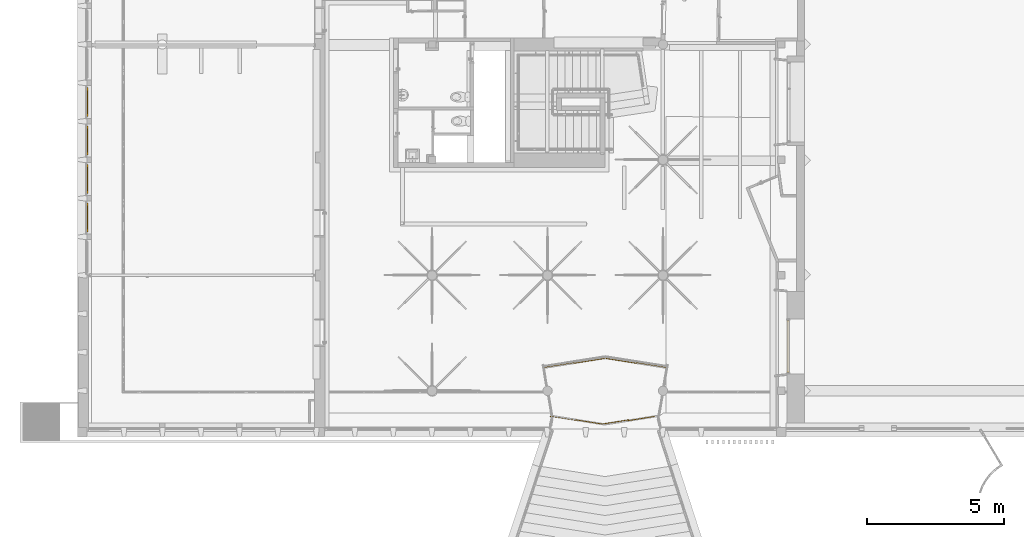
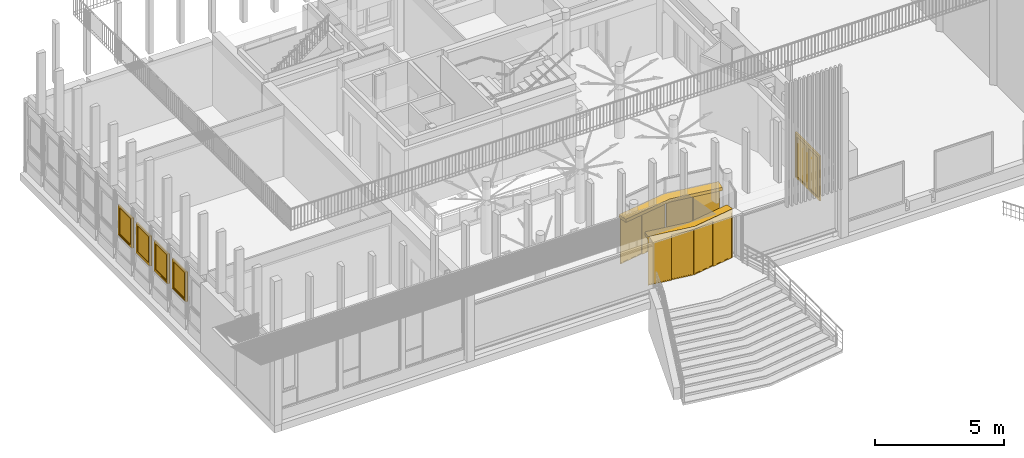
# One storey, part 49 of 65: 4 windows, 3 doors, 7 elements without a shape of their own.
"""IFC4 building model written with IfcOpenShell, lengths in metres."""

from ifc_helpers import new_model, entity, si_unit, converted_unit, derived_unit, direction, frame, origin, place, context, subcontext, project, spatial, indexed_curve, outline, extrude, polygons, source, transform, mapped, material, material_list, constituent, constituent_set, type_object, type_shapes, element, aggregate, save


model = new_model("IFC4")

# Units and contexts
model_context = context("Model", 3, precision=1e-05, world=origin(), true_north=direction((6.12303176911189e-17, 1.0)))
body_context = subcontext(model_context, "Body", "Model", "MODEL_VIEW")
ifc_project = project(units=[si_unit("LENGTHUNIT", "METRE"), si_unit("AREAUNIT", "SQUARE_METRE"), si_unit("VOLUMEUNIT", "CUBIC_METRE"), converted_unit("PLANEANGLEUNIT", "DEGREE", entity("IfcRatioMeasure", 0.0174532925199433), si_unit("PLANEANGLEUNIT", "RADIAN"), dimensions=[0, 0, 0, 0, 0, 0, 0]), si_unit("MASSUNIT", "GRAM", prefix="KILO"), derived_unit("MASSDENSITYUNIT", [(si_unit("MASSUNIT", "GRAM", prefix="KILO"), 1), (si_unit("LENGTHUNIT", "METRE"), -3)]), derived_unit("MOMENTOFINERTIAUNIT", [(si_unit("LENGTHUNIT", "METRE"), 4)]), si_unit("TIMEUNIT", "SECOND"), si_unit("FREQUENCYUNIT", "HERTZ"), si_unit("THERMODYNAMICTEMPERATUREUNIT", "DEGREE_CELSIUS"), derived_unit("THERMALTRANSMITTANCEUNIT", [(si_unit("MASSUNIT", "GRAM", prefix="KILO"), 1), (si_unit("THERMODYNAMICTEMPERATUREUNIT", "KELVIN"), -1), (si_unit("TIMEUNIT", "SECOND"), -3)]), derived_unit("VOLUMETRICFLOWRATEUNIT", [(si_unit("LENGTHUNIT", "METRE"), 3), (si_unit("TIMEUNIT", "SECOND"), -1)]), si_unit("ELECTRICCURRENTUNIT", "AMPERE"), si_unit("ELECTRICVOLTAGEUNIT", "VOLT"), si_unit("POWERUNIT", "WATT"), si_unit("FORCEUNIT", "NEWTON", prefix="KILO"), si_unit("ILLUMINANCEUNIT", "LUX"), si_unit("LUMINOUSFLUXUNIT", "LUMEN"), si_unit("LUMINOUSINTENSITYUNIT", "CANDELA"), derived_unit("USERDEFINED", [(si_unit("MASSUNIT", "GRAM", prefix="KILO"), -1), (si_unit("LENGTHUNIT", "METRE"), -2), (si_unit("TIMEUNIT", "SECOND"), 3), (si_unit("LUMINOUSFLUXUNIT", "LUMEN"), 1)]), derived_unit("LINEARVELOCITYUNIT", [(si_unit("LENGTHUNIT", "METRE"), 1), (si_unit("TIMEUNIT", "SECOND"), -1)]), si_unit("PRESSUREUNIT", "PASCAL"), derived_unit("USERDEFINED", [(si_unit("LENGTHUNIT", "METRE"), -2), (si_unit("MASSUNIT", "GRAM", prefix="KILO"), 1), (si_unit("TIMEUNIT", "SECOND"), -2)]), derived_unit("LINEARFORCEUNIT", [(si_unit("MASSUNIT", "GRAM", prefix="KILO"), 1), (si_unit("LENGTHUNIT", "METRE"), 1), (si_unit("TIMEUNIT", "SECOND"), -2), (si_unit("LENGTHUNIT", "METRE"), -1)]), derived_unit("PLANARFORCEUNIT", [(si_unit("MASSUNIT", "GRAM", prefix="KILO"), 1), (si_unit("LENGTHUNIT", "METRE"), 1), (si_unit("TIMEUNIT", "SECOND"), -2), (si_unit("LENGTHUNIT", "METRE"), -2)])], contexts=[model_context])

# Site, building, storey
site_placement = place(None, origin())
site = spatial("IfcSite", under=ifc_project, at=site_placement, Name="Default", CompositionType="ELEMENT")
building_placement = place(site_placement, origin())
building = spatial("IfcBuilding", under=site, at=building_placement, Name="HOTEL CONSULAIRE BOULOGNE SUR MER", CompositionType="ELEMENT")
storey_placement = place(building_placement, origin())
storey = spatial("IfcBuildingStorey", under=building, at=storey_placement, Name="Niveau 0", CompositionType="ELEMENT", Elevation=1.31981936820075e-13)

# Curtain wall, door
curtain_wall_type = type_object("IfcCurtainWallType", Name="Mur-rideau:Simple panneau", PredefinedType="NOTDEFINED")
curtain_wall_1_placement = place(storey_placement, origin())
curtain_wall_1 = element("IfcCurtainWall", 1, at=curtain_wall_1_placement, inside=storey, type_object=curtain_wall_type, Name="Mur-rideau:Simple panneau", ObjectType="Mur-rideau:Simple panneau", PredefinedType="NOTDEFINED")
ifc_material_1 = material(Name="PVC, souple", Category="Plastique")
ifc_constituent_1 = constituent(ifc_material_1, Name="PVC, souple", Category="Matériaux")
ifc_material_2 = material(Name="Verre", Category="Verre")
ifc_constituent_2 = constituent(ifc_material_2, Name="Verre", Category="Matériaux")
ifc_constituent_set_1 = constituent_set(constituents=[ifc_constituent_1, ifc_constituent_2], Name="MaterialConstituentSet")
ifc_material_list_1 = material_list([ifc_material_1, ifc_material_1, ifc_material_1])
door_type_1 = type_object("IfcDoorType", Name="Double vitrée1:Double vitrée1", OperationType="SWING_FIXED_RIGHT", PredefinedType="DOOR", material=ifc_material_list_1)
shared_shape_1 = source(origin(), body_context, "Body", "SweptSolid", [
    extrude(outline(indexed_curve([(-1.05645752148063, -0.948536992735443), (1.08145752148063, -0.948536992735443), (1.08145752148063, 0.948536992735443), (-1.05645752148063, 0.948536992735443), (-1.05645752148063, 0.898536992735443), (1.03145752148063, 0.898536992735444), (1.03145752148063, -0.898536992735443), (-1.05645752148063, -0.898536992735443), (-1.05645752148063, -0.948536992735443)], self_intersect=False)), frame((0.0, -0.0250000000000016, 1.05645752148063), z_axis=(0.0, 1.0, 0.0), x_axis=(0.0, 0.0, 1.0)), (0.0, 0.0, 1.0), 0.07),
    extrude(outline(indexed_curve([(-0.00500000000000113, -0.349268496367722), (0.00499999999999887, -0.349268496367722), (0.00500000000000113, 0.349268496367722), (-0.00499999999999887, 0.349268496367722), (-0.00500000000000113, -0.349268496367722)], self_intersect=False)), frame((0.449268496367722, 0.0099999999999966, 0.1), z_axis=(0.0, 0.0, 1.0), x_axis=(0.0, 1.0, 0.0)), (0.0, 0.0, 1.0), 1.88791504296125),
    extrude(outline(indexed_curve([(-0.449268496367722, -1.04395752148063), (0.449268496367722, -1.04395752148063), (0.449268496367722, 1.04395752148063), (-0.449268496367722, 1.04395752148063), (-0.449268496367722, -1.04395752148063)], self_intersect=False), holes=[indexed_curve([(-0.349268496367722, 0.943957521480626), (0.349268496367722, 0.943957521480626), (0.349268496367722, -0.943957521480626), (-0.349268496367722, -0.943957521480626), (-0.349268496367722, 0.943957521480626)], self_intersect=False)]), frame((0.449268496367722, -0.0150000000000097, 1.04395752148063), z_axis=(0.0, 1.0, 0.0), x_axis=(-1.0, 0.0, 0.0)), (0.0, 0.0, 1.0), 0.05),
    extrude(outline(indexed_curve([(-0.00500000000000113, -0.349268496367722), (0.00499999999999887, -0.349268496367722), (0.00500000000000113, 0.349268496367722), (-0.00499999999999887, 0.349268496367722), (-0.00500000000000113, -0.349268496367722)], self_intersect=False)), frame((-0.449268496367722, 0.00999999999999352, 0.1), z_axis=(0.0, 0.0, 1.0), x_axis=(0.0, 1.0, 0.0)), (0.0, 0.0, 1.0), 1.88791504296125),
    extrude(outline(indexed_curve([(-1.04395752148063, -0.449268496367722), (1.04395752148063, -0.449268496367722), (1.04395752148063, 0.449268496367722), (-1.04395752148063, 0.449268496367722), (-1.04395752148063, -0.449268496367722)], self_intersect=False), holes=[indexed_curve([(-0.943957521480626, -0.349268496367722), (-0.943957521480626, 0.349268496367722), (0.943957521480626, 0.349268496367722), (0.943957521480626, -0.349268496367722), (-0.943957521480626, -0.349268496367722)], self_intersect=False)]), frame((-0.449268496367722, -0.0150000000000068, 1.04395752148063), z_axis=(0.0, 1.0, 0.0), x_axis=(0.0, 0.0, -1.0)), (0.0, 0.0, 1.0), 0.05),
])
type_shapes(door_type_1, [shared_shape_1])
door_1_placement = place(curtain_wall_1_placement, frame((11.7294778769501, -26.6015193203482, 0.0), z_axis=(0.0, 0.0, 1.0), x_axis=(0.0, 1.0, 0.0)))
door_1 = element("IfcDoor", 2, at=door_1_placement, type_object=door_type_1, material=ifc_constituent_set_1, Name="Double vitrée1:Double vitrée1", ObjectType="Double vitrée1:Double vitrée1", OperationType="SWING_FIXED_RIGHT", OverallHeight=2.13791504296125, OverallWidth=1.89707398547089, PredefinedType="DOOR", context=body_context, shape_type="MappedRepresentation", body=[
    mapped(shared_shape_1, transform((0.0, 0.0, 0.0), scale=1.0)),
])
aggregate(curtain_wall_1, [door_1])

curtain_wall_2_placement = place(storey_placement, origin())
curtain_wall_2 = element("IfcCurtainWall", 3, at=curtain_wall_2_placement, inside=storey, type_object=curtain_wall_type, Name="Mur-rideau:Simple panneau", ObjectType="Mur-rideau:Simple panneau", PredefinedType="NOTDEFINED")
ifc_material_3 = material(Name="PVC - Blanc", Category="Plastique")
ifc_constituent_3 = constituent(ifc_material_3, Name="PVC - Blanc", Category="Matériaux")
ifc_constituent_4 = constituent(ifc_material_2, Name="Verre", Category="Matériaux")
ifc_constituent_set_2 = constituent_set(constituents=[ifc_constituent_3, ifc_constituent_4], Name="MaterialConstituentSet")
ifc_material_list_2 = material_list([ifc_material_3, ifc_material_3])
door_type_2 = type_object("IfcDoorType", Name="Coulissante vitrée1:Coulissante vitrée1", OperationType="NOTDEFINED", PredefinedType="DOOR", material=ifc_material_list_2)
shared_shape_2 = source(origin(), body_context, "Body", "SweptSolid", [
    extrude(outline(indexed_curve([(-0.487773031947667, -1.083), (0.487773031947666, -1.083), (0.487773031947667, 1.083), (-0.487773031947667, 1.083), (-0.487773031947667, -1.083)], self_intersect=False), holes=[indexed_curve([(0.447773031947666, -1.043), (-0.447773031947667, -1.043), (-0.447773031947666, 1.043), (0.447773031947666, 1.043), (0.447773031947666, -1.043)], self_intersect=False)]), frame((0.469331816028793, -0.104384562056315, 1.083), z_axis=(-0.156434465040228, 0.987688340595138, 0.0), x_axis=(0.987688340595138, 0.156434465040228, 0.0)), (0.0, 0.0, 1.0), 0.0250000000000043),
    extrude(outline(indexed_curve([(-1.083, -0.487772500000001), (1.083, -0.487772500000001), (1.083, 0.487772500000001), (-1.083, 0.487772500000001), (-1.083, -0.487772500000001)], self_intersect=False), holes=[indexed_curve([(-1.043, -0.4477725), (-1.043, 0.4477725), (1.043, 0.4477725), (1.043, -0.4477725), (-1.043, -0.4477725)], self_intersect=False)]), frame((1.39727009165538, 0.0172747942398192, 1.083), z_axis=(-0.156434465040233, 0.987688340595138, 0.0), x_axis=(0.0, 0.0, -1.0)), (0.0, 0.0, 1.0), 0.025),
    extrude(outline(indexed_curve([(-1.083, -0.487773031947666), (1.083, -0.487773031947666), (1.083, 0.487773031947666), (-1.083, 0.487773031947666), (-1.083, -0.487773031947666)], self_intersect=False), holes=[indexed_curve([(-1.04299999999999, 0.447773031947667), (1.043, 0.447773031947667), (1.043, -0.447773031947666), (-1.04299999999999, -0.447773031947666), (-1.04299999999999, 0.447773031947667)], self_intersect=False)]), frame((-0.51125721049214, -0.104384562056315, 1.083), z_axis=(0.156434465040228, 0.987688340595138, 0.0), x_axis=(0.0, 0.0, -1.0)), (0.0, 0.0, 1.0), 0.0250000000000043),
    extrude(outline(indexed_curve([(-0.487772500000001, -1.083), (0.487772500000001, -1.083), (0.487772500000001, 1.083), (-0.487772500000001, 1.083), (-0.487772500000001, -1.083)], self_intersect=False), holes=[indexed_curve([(-0.447772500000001, -1.04299999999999), (-0.447772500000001, 1.043), (0.447772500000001, 1.043), (0.4477725, -1.04299999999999), (-0.447772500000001, -1.04299999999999)], self_intersect=False)]), frame((-1.43919548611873, 0.0172747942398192, 1.083), z_axis=(0.156434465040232, 0.987688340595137, 0.0), x_axis=(0.987688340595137, -0.156434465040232, 0.0)), (0.0, 0.0, 1.0), 0.025),
    extrude(outline(indexed_curve([(-0.00450000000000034, -0.447773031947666), (0.00449999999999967, -0.447773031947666), (0.00450000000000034, 0.447773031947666), (-0.00449999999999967, 0.447773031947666), (-0.00450000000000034, -0.447773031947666)], self_intersect=False)), frame((0.46721995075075, -0.0910507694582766, 0.04), z_axis=(0.0, 0.0, 1.0), x_axis=(-0.156434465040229, 0.987688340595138, 0.0)), (0.0, 0.0, 1.0), 2.086),
    extrude(outline(indexed_curve([(-0.00450000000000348, -0.4477725), (0.00450000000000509, -0.4477725), (0.00450000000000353, 0.447772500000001), (-0.00450000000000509, 0.447772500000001), (-0.00450000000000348, -0.4477725)], self_intersect=False)), frame((1.39547109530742, 0.0286332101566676, 0.0400000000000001), z_axis=(0.0, 0.0, 1.0), x_axis=(-0.156434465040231, 0.987688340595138, 0.0)), (0.0, 0.0, 1.0), 2.086),
    extrude(outline(indexed_curve([(-0.00450000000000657, -0.447773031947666), (0.00449999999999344, -0.447773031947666), (0.0045000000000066, 0.447773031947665), (-0.00449999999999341, 0.447773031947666), (-0.00450000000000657, -0.447773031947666)], self_intersect=False)), frame((-0.509145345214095, -0.0910507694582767, 0.04), z_axis=(0.0, 0.0, 1.0), x_axis=(0.156434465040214, 0.98768834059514, 0.0)), (0.0, 0.0, 1.0), 2.08599999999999),
    extrude(outline(indexed_curve([(-0.00450000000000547, -0.4477725), (0.00450000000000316, -0.4477725), (0.00450000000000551, 0.4477725), (-0.00450000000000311, 0.4477725), (-0.00450000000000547, -0.4477725)], self_intersect=False)), frame((-1.43739648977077, 0.0286332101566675, 0.0400000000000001), z_axis=(0.0, 0.0, 1.0), x_axis=(0.15643446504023, 0.987688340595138, 0.0)), (0.0, 0.0, 1.0), 2.08599999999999),
    extrude(outline(indexed_curve([(-0.0586490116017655, -0.370295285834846), (1.86503472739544, -0.370295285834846), (1.86503472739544, -0.0202952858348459), (-0.00321445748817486, -0.0202952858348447), (-1.78002501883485, 0.557025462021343), (-1.88818096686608, 0.22415568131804), (-0.0586490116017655, -0.370295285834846)], self_intersect=False)), frame((-0.0209626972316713, 0.167559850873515, 2.166), z_axis=(0.0, 0.0, 1.0), x_axis=(0.987688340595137, 0.156434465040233, 0.0)), (0.0, 0.0, 1.0), 0.149999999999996),
])
type_shapes(door_type_2, [shared_shape_2])
door_2_placement = place(curtain_wall_2_placement, frame((4.9801570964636, -29.2557686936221, 0.0)))
door_2 = element("IfcDoor", 4, at=door_2_placement, type_object=door_type_2, material=ifc_constituent_set_2, Name="Coulissante vitrée1:Coulissante vitrée1", ObjectType="Coulissante vitrée1:Coulissante vitrée1", OperationType="NOTDEFINED", OverallHeight=2.316, OverallWidth=4.01796064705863, PredefinedType="DOOR", context=body_context, shape_type="MappedRepresentation", body=[
    mapped(shared_shape_2, transform((0.0, 0.0, 0.0), scale=1.0)),
])
aggregate(curtain_wall_2, [door_2])

curtain_wall_3_placement = place(storey_placement, origin())
curtain_wall_3 = element("IfcCurtainWall", 5, at=curtain_wall_3_placement, inside=storey, type_object=curtain_wall_type, Name="Mur-rideau:Simple panneau", ObjectType="Mur-rideau:Simple panneau", PredefinedType="NOTDEFINED")
ifc_constituent_5 = constituent(ifc_material_3, Name="PVC - Blanc", Category="Matériaux")
ifc_constituent_6 = constituent(ifc_material_2, Name="Verre", Category="Matériaux")
ifc_constituent_set_3 = constituent_set(constituents=[ifc_constituent_5, ifc_constituent_6], Name="MaterialConstituentSet")
ifc_material_list_3 = material_list([ifc_material_3, ifc_material_3])
door_type_3 = type_object("IfcDoorType", Name="Coulissante vitrée2:Coulissante vitrée2", OperationType="NOTDEFINED", PredefinedType="DOOR", material=ifc_material_list_3)
shared_shape_3 = source(origin(), body_context, "Body", "SweptSolid", [
    extrude(outline(indexed_curve([(-1.083, -0.569401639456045), (1.083, -0.569401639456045), (1.083, 0.569401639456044), (-1.083, 0.569401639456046), (-1.083, -0.569401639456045)], self_intersect=False), holes=[indexed_curve([(-1.043, 0.529401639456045), (1.043, 0.529401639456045), (1.043, -0.529401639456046), (-1.043, -0.529401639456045), (-1.043, 0.529401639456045)], self_intersect=False)]), frame((-0.590228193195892, 0.114872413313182, 1.083), z_axis=(-0.156434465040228, 0.987688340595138, 0.0), x_axis=(0.0, 0.0, -1.0)), (0.0, 0.0, 1.0), 0.0250000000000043),
    extrude(outline(indexed_curve([(-0.559401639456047, -1.08299999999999), (0.559401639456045, -1.08299999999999), (0.559401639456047, 1.08299999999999), (-0.559401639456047, 1.08299999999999), (-0.559401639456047, -1.08299999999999)], self_intersect=False), holes=[indexed_curve([(-0.519401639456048, -1.04300000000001), (-0.519401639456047, 1.04299999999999), (0.519401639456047, 1.04299999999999), (0.519401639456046, -1.04300000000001), (-0.519401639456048, -1.04300000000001)], self_intersect=False)]), frame((-1.66953735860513, -0.030761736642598, 1.08299999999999), z_axis=(-0.156434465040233, 0.987688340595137, 0.0), x_axis=(0.987688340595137, 0.156434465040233, 0.0)), (0.0, 0.0, 1.0), 0.025),
    extrude(outline(indexed_curve([(-0.569401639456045, -1.083), (0.569401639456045, -1.083), (0.569401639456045, 1.083), (-0.569401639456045, 1.083), (-0.569401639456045, -1.083)], self_intersect=False), holes=[indexed_curve([(0.529401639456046, -1.04300000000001), (-0.529401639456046, -1.04300000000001), (-0.529401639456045, 1.043), (0.529401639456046, 1.043), (0.529401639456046, -1.04300000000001)], self_intersect=False)]), frame((0.596124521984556, 0.114872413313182, 1.083), z_axis=(0.156434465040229, 0.987688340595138, 0.0), x_axis=(0.987688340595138, -0.156434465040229, 0.0)), (0.0, 0.0, 1.0), 0.0250000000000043),
    extrude(outline(indexed_curve([(-1.083, -0.559401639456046), (1.083, -0.559401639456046), (1.083, 0.559401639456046), (-1.083, 0.559401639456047), (-1.083, -0.559401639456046)], self_intersect=False), holes=[indexed_curve([(-1.04300000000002, -0.519401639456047), (-1.04300000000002, 0.519401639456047), (1.043, 0.519401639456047), (1.043, -0.519401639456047), (-1.04300000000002, -0.519401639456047)], self_intersect=False)]), frame((1.67543368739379, -0.0307617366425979, 1.083), z_axis=(0.156434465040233, 0.987688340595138, 0.0), x_axis=(0.0, 0.0, -1.0)), (0.0, 0.0, 1.0), 0.025),
    extrude(outline(indexed_curve([(-0.529401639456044, -0.00450000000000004), (0.529401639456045, -0.00449999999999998), (0.529401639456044, 0.00450000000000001), (-0.529401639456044, 0.00449999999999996), (-0.529401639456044, -0.00450000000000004)], self_intersect=False)), frame((-0.592027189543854, 0.126230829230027, 0.0400000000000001), z_axis=(0.0, 0.0, 1.0), x_axis=(-0.987688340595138, -0.156434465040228, 0.0)), (0.0, 0.0, 1.0), 2.08599999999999),
    extrude(outline(indexed_curve([(-0.519401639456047, -0.00450000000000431), (0.519401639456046, -0.00450000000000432), (0.519401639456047, 0.00450000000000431), (-0.519401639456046, 0.00450000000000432), (-0.519401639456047, -0.00450000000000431)], self_intersect=False)), frame((-1.67164922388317, -0.0174279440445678, 0.0400000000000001), z_axis=(0.0, 0.0, 1.0), x_axis=(-0.987688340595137, -0.156434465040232, 0.0)), (0.0, 0.0, 1.0), 2.086),
    extrude(outline(indexed_curve([(-0.529401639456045, -0.00449999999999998), (0.529401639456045, -0.00450000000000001), (0.529401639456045, 0.00449999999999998), (-0.529401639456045, 0.00450000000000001), (-0.529401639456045, -0.00449999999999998)], self_intersect=False)), frame((0.597923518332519, 0.126230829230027, 0.0400000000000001), z_axis=(0.0, 0.0, 1.0), x_axis=(-0.987688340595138, 0.156434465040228, 0.0)), (0.0, 0.0, 1.0), 2.086),
    extrude(outline(indexed_curve([(-0.519401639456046, -0.00450000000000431), (0.519401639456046, -0.00450000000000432), (0.519401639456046, 0.00450000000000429), (-0.519401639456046, 0.00450000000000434), (-0.519401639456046, -0.00450000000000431)], self_intersect=False)), frame((1.67754555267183, -0.0174279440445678, 0.0400000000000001), z_axis=(0.0, 0.0, 1.0), x_axis=(-0.987688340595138, 0.156434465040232, 0.0)), (0.0, 0.0, 1.0), 2.08600000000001),
    extrude(outline(indexed_curve([(-0.0704736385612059, -0.444953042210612), (2.19601004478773, -0.444953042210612), (2.19601004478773, -0.0149530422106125), (-0.00236832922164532, -0.0149530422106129), (-2.09315040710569, 0.664383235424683), (-2.22602771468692, 0.255428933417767), (-0.0704736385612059, -0.444953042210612)], self_intersect=False)), frame((0.00294816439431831, -0.12847706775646, 2.166), z_axis=(0.0, 0.0, 1.0), x_axis=(-0.987688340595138, -0.156434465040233, 0.0)), (0.0, 0.0, 1.0), 0.149999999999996),
])
type_shapes(door_type_3, [shared_shape_3])
door_3_placement = place(curtain_wall_3_placement, frame((5.06730722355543, -27.2565666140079, 0.0)))
door_3 = element("IfcDoor", 6, at=door_3_placement, type_object=door_type_3, material=ifc_constituent_set_3, Name="Coulissante vitrée2:Coulissante vitrée2", ObjectType="Coulissante vitrée2:Coulissante vitrée2", OperationType="NOTDEFINED", OverallHeight=2.316, OverallWidth=4.48017154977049, PredefinedType="DOOR", context=body_context, shape_type="MappedRepresentation", body=[
    mapped(shared_shape_3, transform((0.0, 0.0, 0.0), scale=1.0)),
])
aggregate(curtain_wall_3, [door_3])

# Curtain wall, window
curtain_wall_4_placement = place(storey_placement, origin())
curtain_wall_4 = element("IfcCurtainWall", 7, at=curtain_wall_4_placement, inside=storey, type_object=curtain_wall_type, Name="Mur-rideau:Simple panneau", ObjectType="Mur-rideau:Simple panneau", PredefinedType="NOTDEFINED")
ifc_constituent_7 = constituent(ifc_material_3, Name="PVC - Blanc", Category="Matériaux")
ifc_material_4 = material(Name="Fenêtre - Vitrage", Category="Verre")
ifc_constituent_8 = constituent(ifc_material_4, Name="Fenêtre - Vitrage", Category="Matériaux")
ifc_constituent_set_4 = constituent_set(constituents=[ifc_constituent_7, ifc_constituent_8], Name="MaterialConstituentSet")
ifc_material_list_4 = material_list([ifc_material_3, ifc_material_3])
window_type = type_object("IfcWindowType", Name="MR 1 Vantail:MR 1 Vantail", PartitioningType="NOTDEFINED", PredefinedType="WINDOW", material=ifc_material_list_4)
shared_shape_4 = source(origin(), body_context, "Body", "Tessellation", [
    polygons([(-0.460646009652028, -0.0492408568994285, 0.472033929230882), (-0.449353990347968, -0.0492408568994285, 0.472033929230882), (-0.447966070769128, -0.0492408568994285, 0.470646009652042), (-0.447966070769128, -0.0492408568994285, 0.459332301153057), (-0.449332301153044, -0.0492408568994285, 0.457966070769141), (-0.460667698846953, -0.0492408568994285, 0.457966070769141), (-0.462033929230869, -0.0492408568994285, 0.459332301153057), (-0.462033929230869, -0.0492408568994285, 0.470646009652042), (-0.462033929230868, -0.0615795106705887, 0.470646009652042), (-0.460646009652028, -0.0621544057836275, 0.472033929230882), (-0.462033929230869, -0.0568932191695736, 0.459332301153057), (-0.462033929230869, -0.063573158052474, 0.452652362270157), (-0.462033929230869, -0.0635731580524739, 0.370000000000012), (-0.462033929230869, -0.0748868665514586, 0.370000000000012), (-0.462033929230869, -0.0748868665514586, 0.457338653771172), (-0.460667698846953, -0.0563273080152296, 0.457966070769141), (-0.449332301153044, -0.0563273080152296, 0.457966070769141), (-0.447966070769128, -0.0568932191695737, 0.459332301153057), (-0.447966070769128, -0.0615795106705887, 0.470646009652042), (-0.447966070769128, -0.0748868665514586, 0.457338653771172), (-0.447966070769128, -0.0748868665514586, 0.370000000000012), (-0.447966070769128, -0.0635731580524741, 0.370000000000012), (-0.447966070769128, -0.0635731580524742, 0.452652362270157), (-0.449353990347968, -0.0621544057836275, 0.472033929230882), (-0.460646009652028, -0.0762747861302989, 0.457913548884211), (-0.460667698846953, -0.0622069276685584, 0.452086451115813), (-0.449332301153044, -0.0622069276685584, 0.452086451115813), (-0.449353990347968, -0.0762747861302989, 0.457913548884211), (-0.460646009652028, -0.0762747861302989, 0.370000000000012), (-0.460667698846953, -0.0622069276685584, 0.370000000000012), (-0.449332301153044, -0.0622069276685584, 0.370000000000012), (-0.449353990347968, -0.0762747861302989, 0.370000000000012)], [[[6, 7, 8, 1, 2, 3, 4, 5]], [[30, 26, 27, 31]], [[9, 10, 1, 8]], [[11, 12, 13, 14, 15, 9, 8, 7]], [[16, 11, 7, 6]], [[16, 6, 5, 17]], [[31, 22, 21, 32, 29, 14, 13, 30]], [[17, 5, 4, 18]], [[3, 19, 20, 21, 22, 23, 18, 4]], [[19, 3, 2, 24]], [[24, 2, 1, 10]], [[15, 25, 10, 9]], [[26, 12, 11, 16]], [[27, 26, 16, 17]], [[27, 17, 18, 23]], [[20, 19, 24, 28]], [[28, 24, 10, 25]], [[29, 25, 15, 14]], [[13, 12, 26, 30]], [[22, 31, 27, 23]], [[32, 21, 20, 28]], [[32, 28, 25, 29]]], closed=True),
    polygons([(-0.462000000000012, -0.0432408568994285, 0.490000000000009), (-0.447999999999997, -0.0432408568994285, 0.490000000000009), (-0.442999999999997, -0.0432408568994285, 0.48500000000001), (-0.442999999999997, -0.0432408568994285, 0.414999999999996), (-0.447999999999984, -0.0432408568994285, 0.410000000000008), (-0.462000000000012, -0.0432408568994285, 0.410000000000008), (-0.466999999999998, -0.0432408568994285, 0.414999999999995), (-0.466999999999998, -0.0432408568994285, 0.48500000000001), (-0.462000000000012, -0.0492408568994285, 0.490000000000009), (-0.466999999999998, -0.0492408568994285, 0.48500000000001), (-0.466999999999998, -0.0492408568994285, 0.414999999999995), (-0.462000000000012, -0.0492408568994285, 0.410000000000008), (-0.447999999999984, -0.0492408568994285, 0.410000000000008), (-0.442999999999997, -0.0492408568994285, 0.414999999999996), (-0.442999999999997, -0.0492408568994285, 0.48500000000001), (-0.447999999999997, -0.0492408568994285, 0.490000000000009)], [[[2, 3, 4, 5, 6, 7, 8, 1]], [[13, 14, 15, 16, 9, 10, 11, 12]], [[9, 1, 8, 10]], [[10, 8, 7, 11]], [[11, 7, 6, 12]], [[12, 6, 5, 13]], [[13, 5, 4, 14]], [[15, 14, 4, 3]], [[15, 3, 2, 16]], [[16, 2, 1, 9]]], closed=True),
    polygons([(0.430000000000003, -0.0192408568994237, 1.334), (-0.430000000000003, -0.0192408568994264, 1.334), (-0.430000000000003, -0.0192408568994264, 0.1), (0.430000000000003, -0.0192408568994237, 0.1), (0.430000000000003, -0.00724085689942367, 1.334), (0.430000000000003, -0.00724085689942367, 0.1), (-0.430000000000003, -0.00724085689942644, 0.1), (-0.430000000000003, -0.00724085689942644, 1.334)], [[[4, 1, 2, 3]], [[7, 8, 5, 6]], [[2, 1, 5, 8]], [[3, 2, 8, 7]], [[4, 3, 7, 6]], [[1, 4, 6, 5]]], closed=True),
    polygons([(-0.480000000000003, 0.0167591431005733, 1.384), (-0.480000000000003, -0.043240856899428, 1.384), (0.480000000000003, -0.043240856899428, 1.384), (0.480000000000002, 0.0167591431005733, 1.384), (-0.430000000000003, -0.043240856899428, 1.334), (-0.430000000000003, 0.0167591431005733, 1.334), (0.430000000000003, 0.0167591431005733, 1.334), (0.430000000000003, -0.043240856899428, 1.334), (0.480000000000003, -0.043240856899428, 0.0500000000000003), (0.480000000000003, 0.0167591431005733, 0.0500000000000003), (0.430000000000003, 0.0167591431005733, 0.1), (0.430000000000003, -0.043240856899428, 0.1), (-0.480000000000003, -0.043240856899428, 0.0500000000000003), (-0.480000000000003, 0.0167591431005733, 0.0500000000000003), (-0.430000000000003, 0.0167591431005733, 0.1), (-0.430000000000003, -0.043240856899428, 0.1)], [[[1, 2, 3, 4]], [[12, 11, 15, 16]], [[5, 6, 7, 8]], [[10, 9, 13, 14]], [[4, 3, 9, 10]], [[16, 15, 6, 5]], [[8, 7, 11, 12]], [[14, 13, 2, 1]], [[9, 3, 2, 13], [16, 5, 8, 12]], [[14, 1, 4, 10], [11, 7, 6, 15]]], closed=True),
    polygons([(-0.470000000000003, 0.016759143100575, 1.374), (-0.470000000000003, 0.0267591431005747, 1.374), (0.470000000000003, 0.0267591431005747, 1.374), (0.470000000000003, 0.016759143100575, 1.374), (-0.480000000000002, -0.0432408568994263, 1.384), (-0.480000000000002, 0.016759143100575, 1.384), (0.480000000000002, 0.016759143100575, 1.384), (0.480000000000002, -0.0432408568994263, 1.384), (-0.530000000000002, 0.0267591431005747, 1.434), (-0.530000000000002, -0.0432408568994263, 1.434), (0.530000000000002, -0.0432408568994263, 1.434), (0.530000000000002, 0.0267591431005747, 1.434), (0.470000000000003, 0.0267591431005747, 0.0600000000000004), (0.470000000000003, 0.016759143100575, 0.0600000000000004), (0.480000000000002, 0.016759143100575, 0.0500000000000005), (0.480000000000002, -0.0432408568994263, 0.0500000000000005), (0.530000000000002, -0.0432408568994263, 5.41433564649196e-16), (0.530000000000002, 0.0267591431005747, 5.41433564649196e-16), (-0.470000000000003, 0.0267591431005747, 0.0600000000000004), (-0.470000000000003, 0.016759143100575, 0.0600000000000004), (-0.480000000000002, 0.016759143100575, 0.0500000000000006), (-0.480000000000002, -0.0432408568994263, 0.0500000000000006), (-0.530000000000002, -0.0432408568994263, 5.41433564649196e-16), (-0.530000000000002, 0.0267591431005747, 5.41433564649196e-16)], [[[1, 2, 3, 4]], [[5, 6, 7, 8]], [[18, 17, 23, 24]], [[9, 10, 11, 12]], [[14, 13, 19, 20]], [[16, 15, 21, 22]], [[4, 3, 13, 14]], [[8, 7, 15, 16]], [[24, 23, 10, 9]], [[12, 11, 17, 18]], [[20, 19, 2, 1]], [[22, 21, 6, 5]], [[24, 9, 12, 18], [13, 3, 2, 19]], [[15, 7, 6, 21], [20, 1, 4, 14]], [[17, 11, 10, 23], [22, 5, 8, 16]]], closed=True),
])
type_shapes(window_type, [shared_shape_4])
window_1_placement = place(curtain_wall_4_placement, frame((-13.7900998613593, -21.9114499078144, 1.0419999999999), z_axis=(0.0, 0.0, 1.0), x_axis=(0.0, 1.0, 0.0)))
window_1 = element("IfcWindow", 8, at=window_1_placement, type_object=window_type, material=ifc_constituent_set_4, Name="MR 1 Vantail:MR 1 Vantail", ObjectType="MR 1 Vantail:MR 1 Vantail", OverallHeight=1.434, OverallWidth=1.06000000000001, PartitioningType="NOTDEFINED", PredefinedType="WINDOW", context=body_context, shape_type="MappedRepresentation", body=[
    mapped(shared_shape_4, transform((0.0, 0.0, 0.0), scale=1.0)),
])
aggregate(curtain_wall_4, [window_1])

curtain_wall_5_placement = place(storey_placement, origin())
curtain_wall_5 = element("IfcCurtainWall", 9, at=curtain_wall_5_placement, inside=storey, type_object=curtain_wall_type, Name="Mur-rideau:Simple panneau", ObjectType="Mur-rideau:Simple panneau", PredefinedType="NOTDEFINED")
ifc_constituent_9 = constituent(ifc_material_3, Name="PVC - Blanc", Category="Matériaux")
ifc_constituent_10 = constituent(ifc_material_4, Name="Fenêtre - Vitrage", Category="Matériaux")
ifc_constituent_set_5 = constituent_set(constituents=[ifc_constituent_9, ifc_constituent_10], Name="MaterialConstituentSet")
window_2_placement = place(curtain_wall_5_placement, frame((-13.7900998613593, -20.5114499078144, 1.0419999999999), z_axis=(0.0, 0.0, 1.0), x_axis=(0.0, 1.0, 0.0)))
window_2 = element("IfcWindow", 10, at=window_2_placement, type_object=window_type, material=ifc_constituent_set_5, Name="MR 1 Vantail:MR 1 Vantail", ObjectType="MR 1 Vantail:MR 1 Vantail", OverallHeight=1.434, OverallWidth=1.06000000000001, PartitioningType="NOTDEFINED", PredefinedType="WINDOW", context=body_context, shape_type="MappedRepresentation", body=[
    mapped(shared_shape_4, transform((0.0, 0.0, 0.0), scale=1.0)),
])
aggregate(curtain_wall_5, [window_2])

curtain_wall_6_placement = place(storey_placement, origin())
curtain_wall_6 = element("IfcCurtainWall", 11, at=curtain_wall_6_placement, inside=storey, type_object=curtain_wall_type, Name="Mur-rideau:Simple panneau", ObjectType="Mur-rideau:Simple panneau", PredefinedType="NOTDEFINED")
ifc_constituent_11 = constituent(ifc_material_3, Name="PVC - Blanc", Category="Matériaux")
ifc_constituent_12 = constituent(ifc_material_4, Name="Fenêtre - Vitrage", Category="Matériaux")
ifc_constituent_set_6 = constituent_set(constituents=[ifc_constituent_11, ifc_constituent_12], Name="MaterialConstituentSet")
window_3_placement = place(curtain_wall_6_placement, frame((-13.7900998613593, -19.1114499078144, 1.0419999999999), z_axis=(0.0, 0.0, 1.0), x_axis=(0.0, 1.0, 0.0)))
window_3 = element("IfcWindow", 12, at=window_3_placement, type_object=window_type, material=ifc_constituent_set_6, Name="MR 1 Vantail:MR 1 Vantail", ObjectType="MR 1 Vantail:MR 1 Vantail", OverallHeight=1.434, OverallWidth=1.06000000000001, PartitioningType="NOTDEFINED", PredefinedType="WINDOW", context=body_context, shape_type="MappedRepresentation", body=[
    mapped(shared_shape_4, transform((0.0, 0.0, 0.0), scale=1.0)),
])
aggregate(curtain_wall_6, [window_3])

curtain_wall_7_placement = place(storey_placement, origin())
curtain_wall_7 = element("IfcCurtainWall", 13, at=curtain_wall_7_placement, inside=storey, type_object=curtain_wall_type, Name="Mur-rideau:Simple panneau", ObjectType="Mur-rideau:Simple panneau", PredefinedType="NOTDEFINED")
ifc_constituent_13 = constituent(ifc_material_3, Name="PVC - Blanc", Category="Matériaux")
ifc_constituent_14 = constituent(ifc_material_4, Name="Fenêtre - Vitrage", Category="Matériaux")
ifc_constituent_set_7 = constituent_set(constituents=[ifc_constituent_13, ifc_constituent_14], Name="MaterialConstituentSet")
window_4_placement = place(curtain_wall_7_placement, frame((-13.7900998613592, -17.7114499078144, 1.0419999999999), z_axis=(0.0, 0.0, 1.0), x_axis=(0.0, 1.0, 0.0)))
window_4 = element("IfcWindow", 14, at=window_4_placement, type_object=window_type, material=ifc_constituent_set_7, Name="MR 1 Vantail:MR 1 Vantail", ObjectType="MR 1 Vantail:MR 1 Vantail", OverallHeight=1.434, OverallWidth=1.06000000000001, PartitioningType="NOTDEFINED", PredefinedType="WINDOW", context=body_context, shape_type="MappedRepresentation", body=[
    mapped(shared_shape_4, transform((0.0, 0.0, 0.0), scale=1.0)),
])
aggregate(curtain_wall_7, [window_4])

save(model, "model.ifc")
